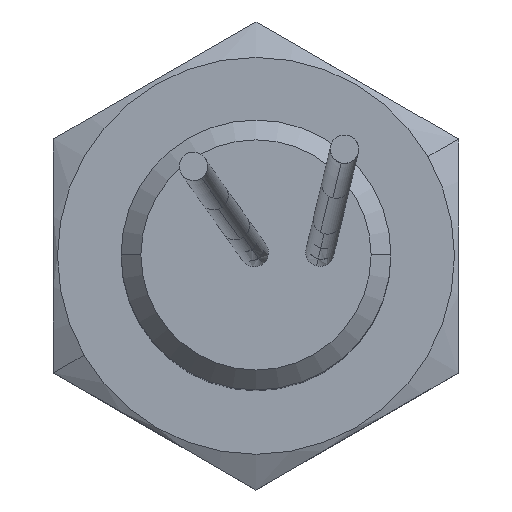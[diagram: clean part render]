
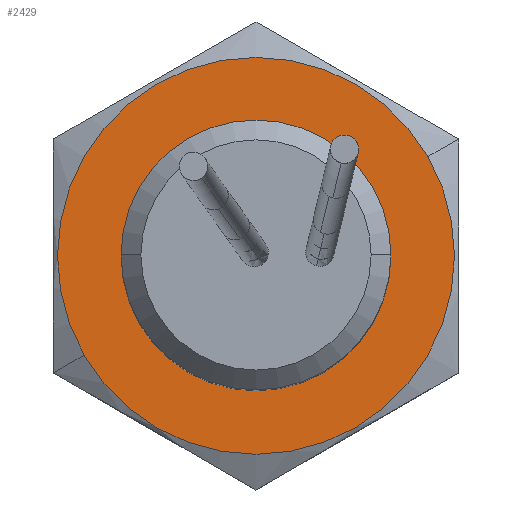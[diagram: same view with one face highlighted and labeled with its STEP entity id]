
A CAD part, top view. The second image highlights one B-rep face of the part: STEP entity #2429.
In plain terms, the highlighted planar face has unit normal (0, 0, 1).
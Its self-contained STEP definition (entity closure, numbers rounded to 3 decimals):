
#9 = DIRECTION ( 'NONE',  ( 0., 0., 1. ) ) ;
#15 = ORIENTED_EDGE ( 'NONE', *, *, #2809, .F. ) ;
#28 = CIRCLE ( 'NONE', #3077, 4.76 ) ;
#33 = CARTESIAN_POINT ( 'NONE',  ( 0., 0., 9.121 ) ) ;
#38 = CARTESIAN_POINT ( 'NONE',  ( -6.062, -3.5, 9.121 ) ) ;
#47 = DIRECTION ( 'NONE',  ( 0., 0., 1. ) ) ;
#147 = CIRCLE ( 'NONE', #1907, 4.76 ) ;
#383 = ORIENTED_EDGE ( 'NONE', *, *, #1187, .T. ) ;
#387 = DIRECTION ( 'NONE',  ( 1., 0., 0. ) ) ;
#438 = VERTEX_POINT ( 'NONE', #781 ) ;
#592 = CIRCLE ( 'NONE', #1643, 7. ) ;
#695 = EDGE_CURVE ( 'Defeatured_070+Defeatured_073+Defeatured_073+Defeatured_073', #438, #1462, #147, .T. ) ;
#714 = CARTESIAN_POINT ( 'NONE',  ( 0., 0., 9.121 ) ) ;
#781 = CARTESIAN_POINT ( 'NONE',  ( 4.76, 0., 9.121 ) ) ;
#824 = EDGE_CURVE ( 'Defeatured_073+Defeatured_076+Defeatured_076+Defeatured_076', #2444, #2151, #3061, .T. ) ;
#1067 = DIRECTION ( 'NONE',  ( 0.866, 0.5, 0. ) ) ;
#1108 = DIRECTION ( 'NONE',  ( 0., 0., 1. ) ) ;
#1187 = EDGE_CURVE ( 'Defeatured_073+Defeatured_076+Defeatured_076+Defeatured_076', #2151, #2444, #592, .T. ) ;
#1239 = FACE_OUTER_BOUND ( 'NONE', #1378, .T. ) ;
#1378 = EDGE_LOOP ( 'NONE', ( #2062, #383 ) ) ;
#1427 = DIRECTION ( 'NONE',  ( 0.866, 0.5, 0. ) ) ;
#1440 = DIRECTION ( 'NONE',  ( 0., 0., 1. ) ) ;
#1452 = DIRECTION ( 'NONE',  ( 0.866, 0.5, 0. ) ) ;
#1462 = VERTEX_POINT ( 'NONE', #3094 ) ;
#1485 = FACE_BOUND ( 'NONE', #1961, .T. ) ;
#1536 = CARTESIAN_POINT ( 'NONE',  ( 0., 0., 9.121 ) ) ;
#1555 = DIRECTION ( 'NONE',  ( 0., 0., 1. ) ) ;
#1643 = AXIS2_PLACEMENT_3D ( 'NONE', #2338, #1440, #1452 ) ;
#1707 = PLANE ( 'NONE',  #2117 ) ;
#1907 = AXIS2_PLACEMENT_3D ( 'NONE', #2199, #1108, #387 ) ;
#1961 = EDGE_LOOP ( 'NONE', ( #15, #3055 ) ) ;
#2062 = ORIENTED_EDGE ( 'NONE', *, *, #824, .T. ) ;
#2117 = AXIS2_PLACEMENT_3D ( 'NONE', #1536, #1555, #1067 ) ;
#2151 = VERTEX_POINT ( 'NONE', #2725 ) ;
#2160 = DIRECTION ( 'NONE',  ( 1., 0., 0. ) ) ;
#2199 = CARTESIAN_POINT ( 'NONE',  ( 0., 0., 9.121 ) ) ;
#2338 = CARTESIAN_POINT ( 'NONE',  ( 0., 0., 9.121 ) ) ;
#2429 = ADVANCED_FACE ( 'Defeatured_073', ( #1485, #1239 ), #1707, .T. ) ;
#2444 = VERTEX_POINT ( 'NONE', #38 ) ;
#2725 = CARTESIAN_POINT ( 'NONE',  ( 6.062, 3.5, 9.121 ) ) ;
#2804 = AXIS2_PLACEMENT_3D ( 'NONE', #714, #9, #1427 ) ;
#2809 = EDGE_CURVE ( 'Defeatured_070+Defeatured_073+Defeatured_073+Defeatured_073', #1462, #438, #28, .T. ) ;
#3055 = ORIENTED_EDGE ( 'NONE', *, *, #695, .F. ) ;
#3061 = CIRCLE ( 'NONE', #2804, 7. ) ;
#3077 = AXIS2_PLACEMENT_3D ( 'NONE', #33, #47, #2160 ) ;
#3094 = CARTESIAN_POINT ( 'NONE',  ( -4.76, 0., 9.121 ) ) ;
